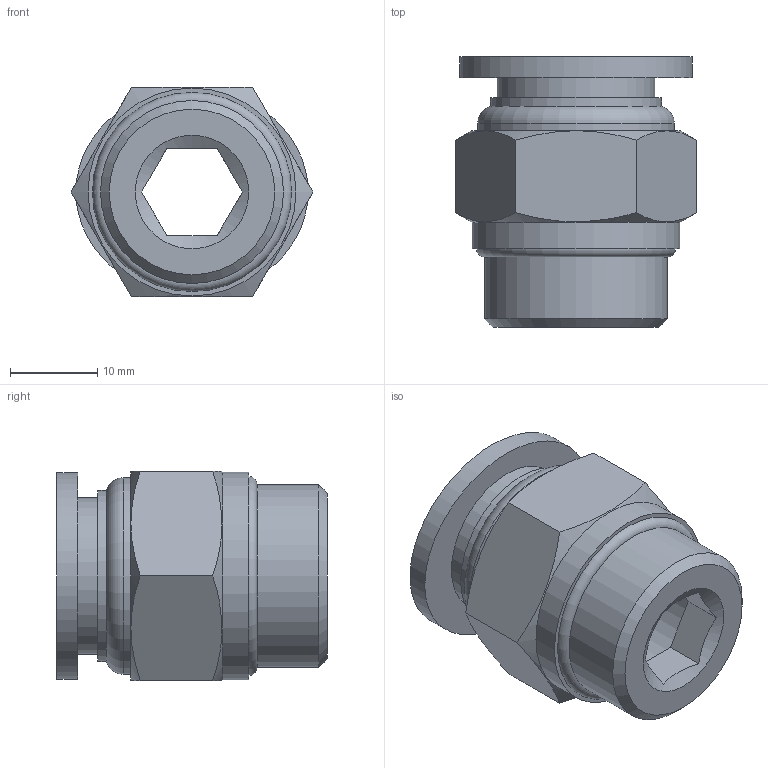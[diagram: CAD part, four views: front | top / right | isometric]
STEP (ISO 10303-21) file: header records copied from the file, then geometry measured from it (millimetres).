
FILE_DESCRIPTION(/* description */ (''),/* implementation_level */ '2;1');
FILE_NAME(/* name */ 'S:\_Tecnico\ArchivioUT\_Disegni3D ingombri\DISEGNI 3D per ingombri\RP\RP 51\RP511215.stp',/* time_stamp */ '2019-07-24T15:39:06+02:00',/* author */ ('ufficiotecnico3'),/* organization */ (''),/* preprocessor_version */ 'ST-DEVELOPER v18',/* originating_system */ 'Autodesk Inventor 2020',/* authorisation */ '');
FILE_SCHEMA (('AUTOMOTIVE_DESIGN { 1 0 10303 214 3 1 1 }'));
Length unit declared in the file: millimetre
Products named in the file (1): RP511215
Bounding box: 27.71 x 31 x 24 mm (x, y, z)
Volume: 7746.4 mm3; surface area: 4770.5 mm2
Topology: 1 solids, 1 shells, 38 faces, 99 edges, 68 vertices
Faces by surface type: plane 19, cone 10, cylinder 6, torus 2, bspline 1
Full cylindrical faces by diameter (mm): 15 x1, 18 x1, 19.6 x1, 20.955 x1, 22.5 x1, 23.8 x1
Entity records: 1219 total; most frequent: CARTESIAN_POINT 283, ORIENTED_EDGE 198, DIRECTION 185, EDGE_CURVE 99, AXIS2_PLACEMENT_3D 78, VERTEX_POINT 68, EDGE_LOOP 45, FACE_OUTER_BOUND 38
